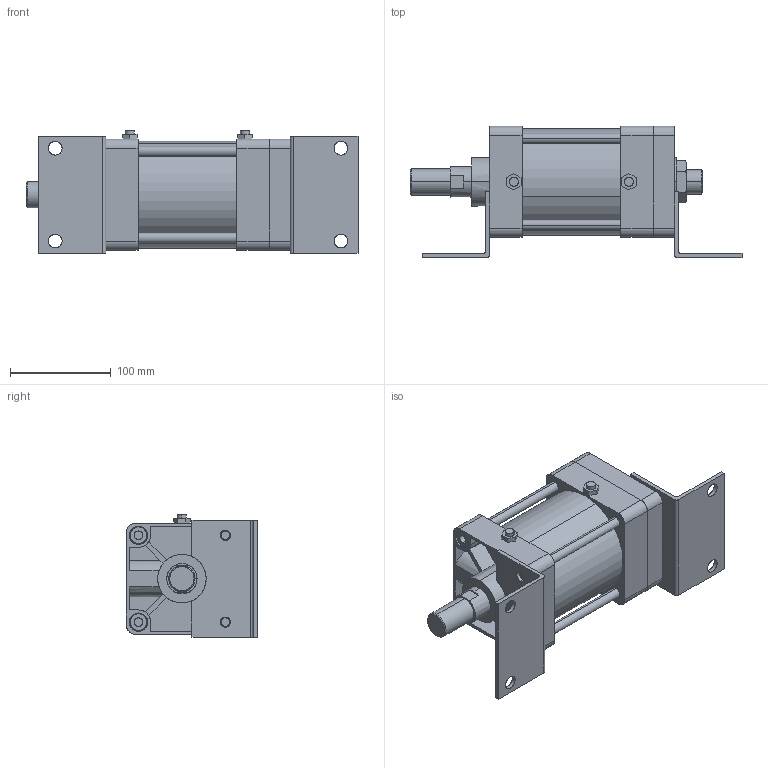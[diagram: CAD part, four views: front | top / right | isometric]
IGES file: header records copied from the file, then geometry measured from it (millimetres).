
Start section: SolidWorks IGES file using analytic representation for surfaces
Global section: file name: C:\Users\Toshiba\Desktop\KGA2-100#-50-L.IGS; native system: SolidWorks 2014; preprocessor: SolidWorks 2014; author: Toshiba; date: 160414.154604; units: millimetre
Bounding box: 329 x 130 x 121.3 mm (x, y, z)
Surface area: 304022.3 mm2 (no closed solid volume)
Topology: 0 solids, 0 shells, 384 faces, 6385 edges, 6381 vertices
Faces by surface type: bspline 203, revolution 181
